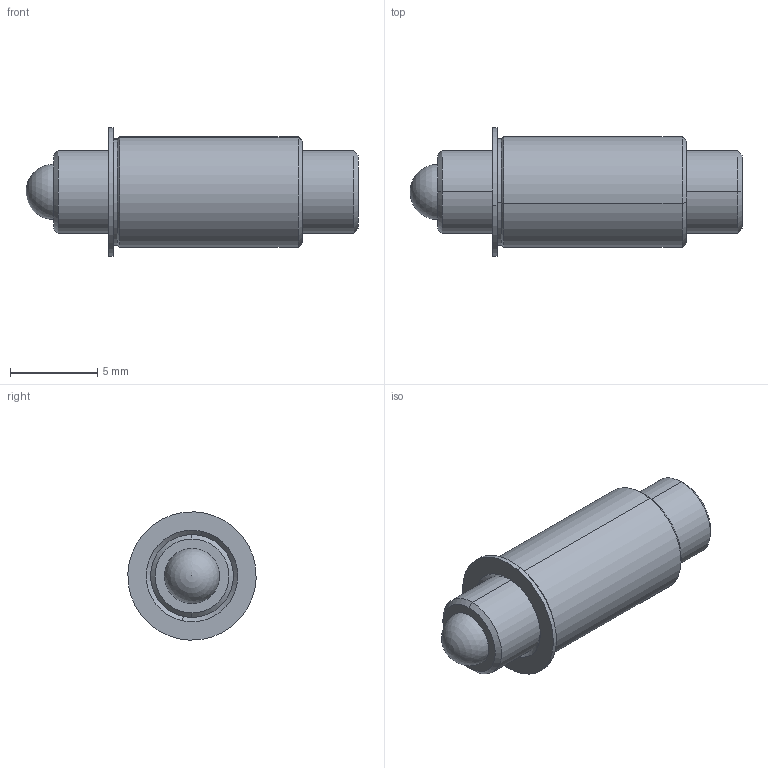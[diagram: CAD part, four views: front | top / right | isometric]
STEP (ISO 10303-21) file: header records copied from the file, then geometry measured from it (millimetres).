
FILE_DESCRIPTION (( 'STEP AP214' ), '1' );
FILE_NAME ('TSB187-100-750_437.STEP', '2013-03-13T13:16:26', ( 'workpc' ), ( 'Microsoft' ), 'SwSTEP 2.0', 'SolidWorks 2013', '' );
FILE_SCHEMA (( 'AUTOMOTIVE_DESIGN' ));
Length unit declared in the file: inch
Products named in the file (1): TSB187-100-750_437
Bounding box: 19.05 x 7.36 x 7.36 mm (x, y, z)
Surface area: 603.9 mm2 (no closed solid volume)
Topology: 0 solids, 3 shells, 33 faces, 77 edges, 49 vertices
Faces by surface type: cone 12, plane 11, cylinder 8, sphere 2
Entity records: 1358 total; most frequent: DIRECTION 174, CARTESIAN_POINT 152, ORIENTED_EDGE 132, EDGE_CURVE 72, AXIS2_PLACEMENT_3D 68, VERTEX_POINT 46, LINE 38, EDGE_LOOP 38
